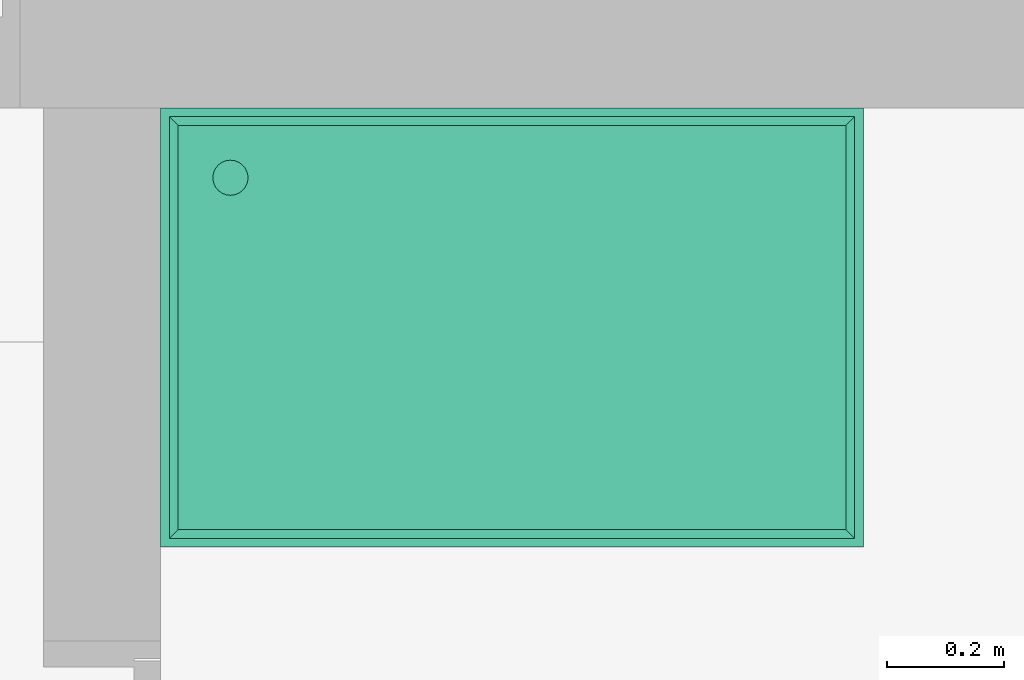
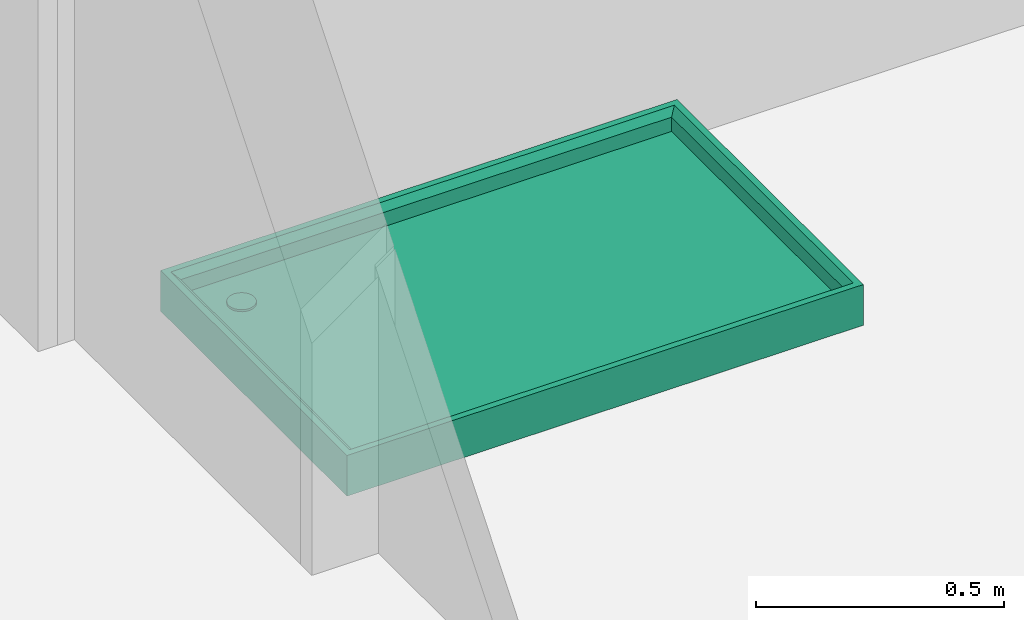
# One storey, part 17 of 18: 1 flow terminal.
"""IFC2X3 building model written with IfcOpenShell, lengths in metres."""

from ifc_helpers import new_model, entity, si_unit, converted_unit, derived_unit, direction, frame, frame_2d, origin, place, context, subcontext, project, spatial, circle, extrude, faceted_brep, source, transform, mapped, material, material_list, type_object, type_shapes, element, save


model = new_model("IFC2X3")

# Units and contexts
model_context = context("Model", 3, precision=1e-05, world=origin(), true_north=direction((6.123233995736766e-17, 1.0)))
body_context = subcontext(model_context, "Body", "Model", "MODEL_VIEW")
ifc_project = project(units=[si_unit("LENGTHUNIT", "METRE"), si_unit("AREAUNIT", "SQUARE_METRE"), si_unit("VOLUMEUNIT", "CUBIC_METRE"), si_unit("POWERUNIT", "WATT"), derived_unit("USERDEFINED", [(si_unit("MASSUNIT", "GRAM", prefix="KILO"), 1), (si_unit("TIMEUNIT", "SECOND"), -3)]), derived_unit("THERMALRESISTANCEUNIT", [(si_unit("MASSUNIT", "GRAM", prefix="KILO"), -1), (si_unit("TIMEUNIT", "SECOND"), 3), (si_unit("THERMODYNAMICTEMPERATUREUNIT", "KELVIN"), 1)]), derived_unit("USERDEFINED", [(si_unit("MASSUNIT", "GRAM", prefix="KILO"), 1), (si_unit("TIMEUNIT", "SECOND"), -2), (si_unit("THERMODYNAMICTEMPERATUREUNIT", "KELVIN"), -1)]), derived_unit("THERMALTRANSMITTANCEUNIT", [(si_unit("MASSUNIT", "GRAM", prefix="KILO"), 1), (si_unit("TIMEUNIT", "SECOND"), -3), (si_unit("THERMODYNAMICTEMPERATUREUNIT", "KELVIN"), -1)]), converted_unit("PLANEANGLEUNIT", "DEGREE", entity("IfcPlaneAngleMeasure", 0.017453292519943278), si_unit("PLANEANGLEUNIT", "RADIAN"), dimensions=[0, 0, 0, 0, 0, 0, 0]), derived_unit("MOMENTOFINERTIAUNIT", [(si_unit("LENGTHUNIT", "METRE"), 4)])], contexts=[model_context])

# Site, building, storey, space
site_placement = place(None, origin())
site = spatial("IfcSite", under=ifc_project, at=site_placement, Name="Default", CompositionType="ELEMENT")
building_placement = place(site_placement, origin())
building = spatial("IfcBuilding", under=site, at=building_placement, CompositionType="ELEMENT")
storey_placement = place(building_placement, frame((0.0, 0.0, 2.6)))
storey = spatial("IfcBuildingStorey", under=building, at=storey_placement, Name="Erdgeschoss", CompositionType="ELEMENT", Elevation=2.6)
space_placement = place(storey_placement, origin())
space = spatial("IfcSpace", under=storey, at=space_placement, Name="16", CompositionType="ELEMENT", InteriorOrExteriorSpace="INTERNAL")

# Flow terminal
ifc_material_1 = material(Name="Metall - Edelstahl satiniert")
ifc_material_2 = material(Name="Keramik - weiß 255_255_255")
ifc_material_list = material_list([ifc_material_1, ifc_material_2])
distribution_element_type = type_object("IfcDistributionElementType", Name="Duschwanne 01:750x1200", material=ifc_material_list)
shared_shape = source(origin(), body_context, "Body", "SolidModel", [
    extrude(circle(Radius=0.03, at=frame_2d((0.0, -5.075939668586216e-17), x_axis=(1.0, 0.0))), frame((0.11928932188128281, 0.11928932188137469, 0.049999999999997)), (0.0, 0.0, 1.0), 0.005000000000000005),
    faceted_brep([(0.030000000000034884, 1.1700000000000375, 0.04999999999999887), (0.030000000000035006, 0.030000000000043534, 0.04999999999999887), (0.7200000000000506, 0.030000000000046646, 0.04999999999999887), (0.7200000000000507, 1.1700000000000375, 0.04999999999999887), (0.7500000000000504, 1.200000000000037, 0.0), (0.7500000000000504, 0.0, 0.0), (0.0, 0.0, 0.0), (0.0, 1.2000000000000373, 0.0), (0.0, 1.2000000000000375, 0.09999999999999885), (0.7500000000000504, 1.2000000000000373, 0.09999999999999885), (0.0, 0.0, 0.09999999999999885), (0.7500000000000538, 0.0, 0.09999999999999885), (0.03000000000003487, 1.1700000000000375, 0.08499999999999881), (0.015000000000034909, 1.1850000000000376, 0.09999999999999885), (0.015000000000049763, 0.01500000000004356, 0.0999999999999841), (0.030000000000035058, 0.030000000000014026, 0.08499999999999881), (0.7350000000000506, 0.01500000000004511, 0.0999999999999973), (0.7200000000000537, 0.030000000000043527, 0.08499999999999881), (0.7350000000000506, 1.1850000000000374, 0.09999999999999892), (0.7200000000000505, 1.170000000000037, 0.08499999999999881)], [[[0, 1, 2, 3]], [[4, 5, 6, 7]], [[4, 7, 8, 9]], [[8, 7, 6, 10]], [[10, 6, 5, 11]], [[11, 5, 4, 9]], [[12, 13, 14, 15]], [[12, 15, 1, 0]], [[15, 14, 16, 17]], [[1, 15, 17, 2]], [[17, 16, 18, 19]], [[2, 17, 19, 3]], [[8, 10, 11, 9], [14, 13, 18, 16]], [[13, 12, 19, 18]], [[12, 0, 3, 19]]]),
])
type_shapes(distribution_element_type, [shared_shape])
flow_terminal_placement = place(space_placement, frame((35.643754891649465, 25.28227237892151, 0.0), z_axis=(0.0, 0.0, 1.0), x_axis=(0.0, -1.0, 0.0)))
element("IfcFlowTerminal", 1, at=flow_terminal_placement, inside=space, type_object=distribution_element_type, material=ifc_material_list, Name="Duschwanne 01:750x1200", ObjectType="Duschwanne 01:750x1200", context=body_context, shape_type="MappedRepresentation", body=[
    mapped(shared_shape, transform((0.0, 0.0, 0.0), scale=1.0)),
])

save(model, "model.ifc")
